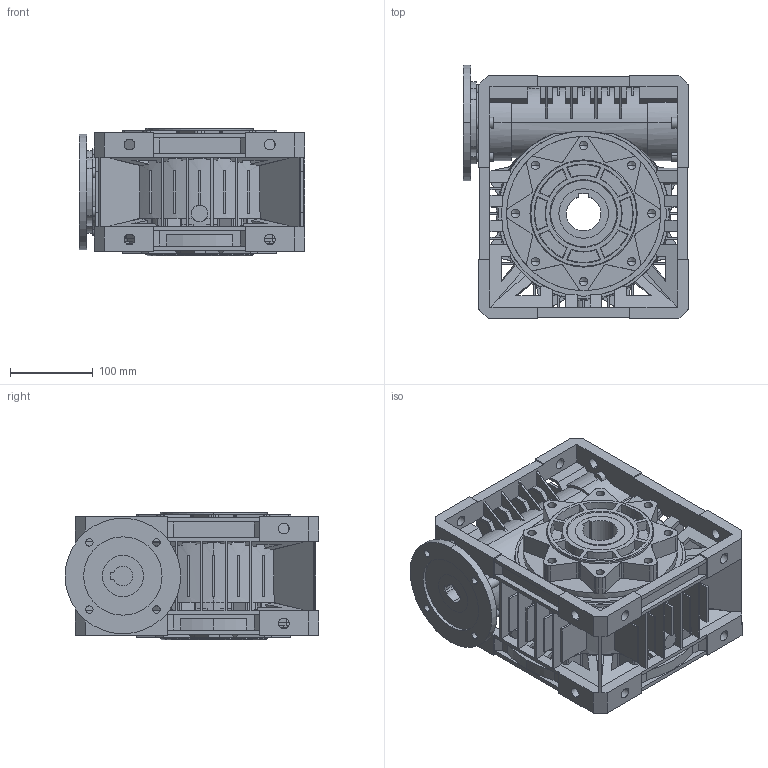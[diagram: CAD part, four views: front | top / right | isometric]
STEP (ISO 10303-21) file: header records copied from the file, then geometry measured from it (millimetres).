
FILE_DESCRIPTION (( 'STEP AP214' ), '1' );
FILE_NAME ('MU 110 NO PAM90B14 NO 0 D42 STANDARD 0 0.step', '2019-01-28T14:03:29', ( '' ), ( '' ), 'SwSTEP 2.0', 'SolidWorks 2015', '' );
FILE_SCHEMA (( 'AUTOMOTIVE_DESIGN' ));
Length unit declared in the file: millimetre
Products named in the file (7): PAM MU 110_PAM 90 B14; FAM MU 110_D.140; FLANGE FP U-MU 110 - 20089362; OUTPUT SHAFT U-MU_U-MU 110 D.42; MU 110 NO PAM90B14 NO 0 D42 STANDARD 0 0; INPUT SHAFT MU 110_F.24; BODY U-MU 110 - 20088784
Assembly tree (6 placements, depth 3):
  MU 110 NO PAM90B14 NO 0 D42 STANDARD 0 0
    BODY U-MU 110 - 20088784
    FLANGE FP U-MU 110 - 20089362
    OUTPUT SHAFT U-MU_U-MU 110 D.42
    PAM MU 110_PAM 90 B14
      FAM MU 110_D.140
      INPUT SHAFT MU 110_F.24
Bounding box: 273.5 x 307.5 x 155 mm (x, y, z)
Volume: 7077236.8 mm3; surface area: 843206.2 mm2
Topology: 5 solids, 6 shells, 1376 faces, 3977 edges, 2573 vertices
Faces by surface type: plane 811, cylinder 424, cone 139, bspline 2
Entity records: 46493 total; most frequent: CARTESIAN_POINT 9418, ORIENTED_EDGE 7874, DIRECTION 7534, EDGE_CURVE 3937, VERTEX_POINT 2573, AXIS2_PLACEMENT_3D 2530, VECTOR 2474, LINE 2474
